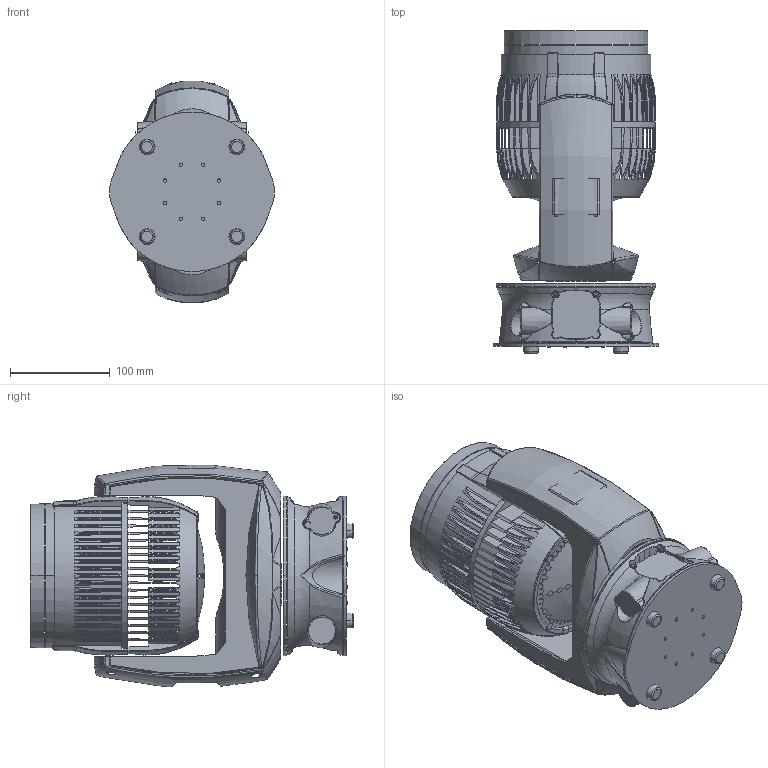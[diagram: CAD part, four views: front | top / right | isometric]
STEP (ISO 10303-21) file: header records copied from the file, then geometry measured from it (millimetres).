
FILE_DESCRIPTION((''),'2;1');
FILE_NAME('X4S-POWERCON_SW0001','2017-03-03T',('fw'),(''),'CREO PARAMETRIC BY PTC INC, 2016130','CREO PARAMETRIC BY PTC INC, 2016130','');
FILE_SCHEMA(('AUTOMOTIVE_DESIGN { 1 0 10303 214 1 1 1 1 }'));
Products named in the file (1): X4S-POWERCON_SW0001
Bounding box: 165.5 x 323.6 x 222.62 mm (x, y, z)
Surface area: 542252.4 mm2 (no closed solid volume)
Topology: 0 solids, 227 shells, 1283 faces, 6277 edges, 5151 vertices
Faces by surface type: plane 417, bspline 289, cylinder 216, cone 185, torus 140, sphere 28, extrusion 8
Entity records: 88603 total; most frequent: CARTESIAN_POINT 36586, ORIENTED_EDGE 7975, DIRECTION 7880, EDGE_CURVE 6273, VERTEX_POINT 5151, AXIS2_PLACEMENT_3D 3067, B_SPLINE_CURVE_WITH_KNOTS 2462, CIRCLE 2081
